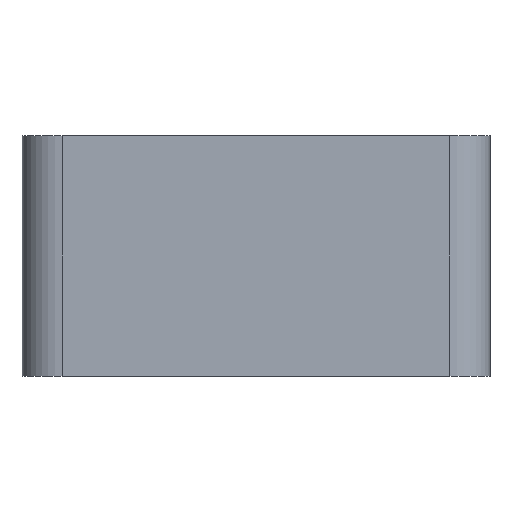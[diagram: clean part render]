
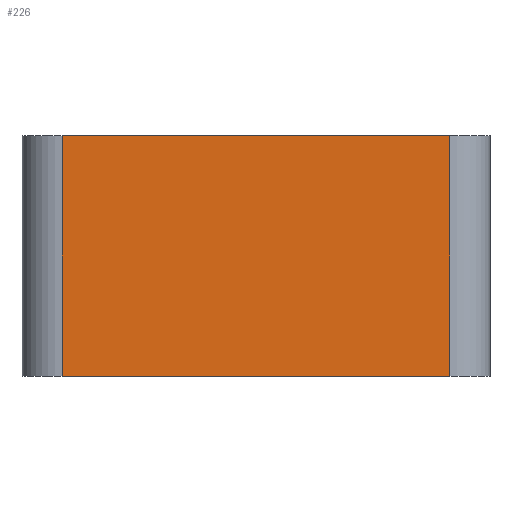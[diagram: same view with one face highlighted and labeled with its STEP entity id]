
A CAD part, front view. The second image highlights one B-rep face of the part: STEP entity #226.
In plain terms, the highlighted planar face has unit normal (0, -1, 0).
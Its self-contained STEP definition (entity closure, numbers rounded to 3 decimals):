
#162=FACE_OUTER_BOUND('',#736,.T.);
#226=ADVANCED_FACE('',(#162),#324,.T.);
#324=PLANE('',#1739);
#376=LINE('',#2482,#450);
#383=LINE('',#2508,#457);
#384=LINE('',#2510,#458);
#385=LINE('',#2512,#459);
#450=VECTOR('',#1877,1.);
#457=VECTOR('',#1894,1.);
#458=VECTOR('',#1895,1.);
#459=VECTOR('',#1896,1.);
#736=EDGE_LOOP('',(#927,#928,#929,#930));
#927=ORIENTED_EDGE('',*,*,#1510,.T.);
#928=ORIENTED_EDGE('',*,*,#1521,.T.);
#929=ORIENTED_EDGE('',*,*,#1522,.T.);
#930=ORIENTED_EDGE('',*,*,#1523,.T.);
#1350=VERTEX_POINT('',#2481);
#1351=VERTEX_POINT('',#2483);
#1361=VERTEX_POINT('',#2509);
#1362=VERTEX_POINT('',#2511);
#1510=EDGE_CURVE('',#1351,#1350,#376,.T.);
#1521=EDGE_CURVE('',#1350,#1361,#383,.T.);
#1522=EDGE_CURVE('',#1361,#1362,#384,.T.);
#1523=EDGE_CURVE('',#1362,#1351,#385,.T.);
#1739=AXIS2_PLACEMENT_3D('',#2513,#1897,#1898);
#1877=DIRECTION('',(-1.,0.,0.));
#1894=DIRECTION('',(0.,0.,-1.));
#1895=DIRECTION('',(1.,0.,0.));
#1896=DIRECTION('',(0.,0.,1.));
#1897=DIRECTION('',(0.,-1.,0.));
#1898=DIRECTION('',(0.,0.,-1.));
#2481=CARTESIAN_POINT('',(3.,0.,18.));
#2482=CARTESIAN_POINT('',(17.5,0.,18.));
#2483=CARTESIAN_POINT('',(32.,0.,18.));
#2508=CARTESIAN_POINT('',(3.,0.,0.));
#2509=CARTESIAN_POINT('',(3.,0.,0.));
#2510=CARTESIAN_POINT('',(17.5,0.,0.));
#2511=CARTESIAN_POINT('',(32.,0.,0.));
#2512=CARTESIAN_POINT('',(32.,0.,0.));
#2513=CARTESIAN_POINT('',(17.5,0.,0.));
